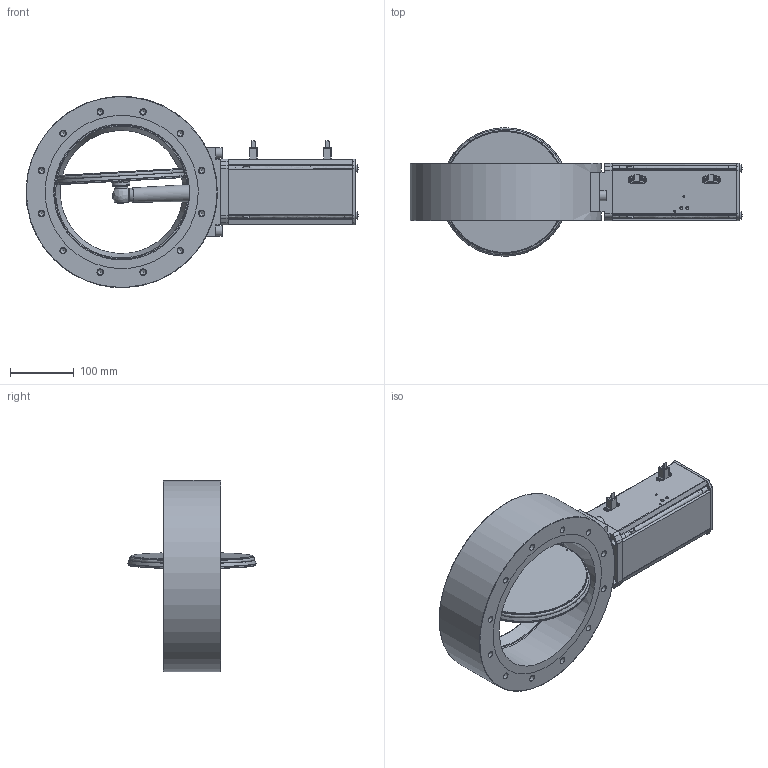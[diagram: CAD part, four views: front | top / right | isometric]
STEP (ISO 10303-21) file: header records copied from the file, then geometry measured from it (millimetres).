
FILE_DESCRIPTION((''),'2;1');
FILE_NAME('O:\MT\MT\Systeme\Cad\Datenexporte\www_vat_ch\243448.stp','2004-06-18T13:24:34',('User'),('SDRC'),'I-DEAS Master Series 9','UNIX','Yes');
FILE_SCHEMA(('CONFIG_CONTROL_DESIGN'));
Length unit declared in the file: millimetre
Assembly tree (39 placements, depth 0):
Bounding box: 520.44 x 201.05 x 299.57 mm (x, y, z)
Volume: 4653939.3 mm3; surface area: 631486.7 mm2
Topology: 51 solids, 51 shells, 1350 faces, 3193 edges, 2061 vertices
Faces by surface type: bspline 1350
Entity records: 31811 total; most frequent: CARTESIAN_POINT 15474, ORIENTED_EDGE 4044, EDGE_CURVE 2022, VERTEX_POINT 1331, EDGE_LOOP 1101, FACE_OUTER_BOUND 880, ADVANCED_FACE 880, QUASI_UNIFORM_CURVE 872
